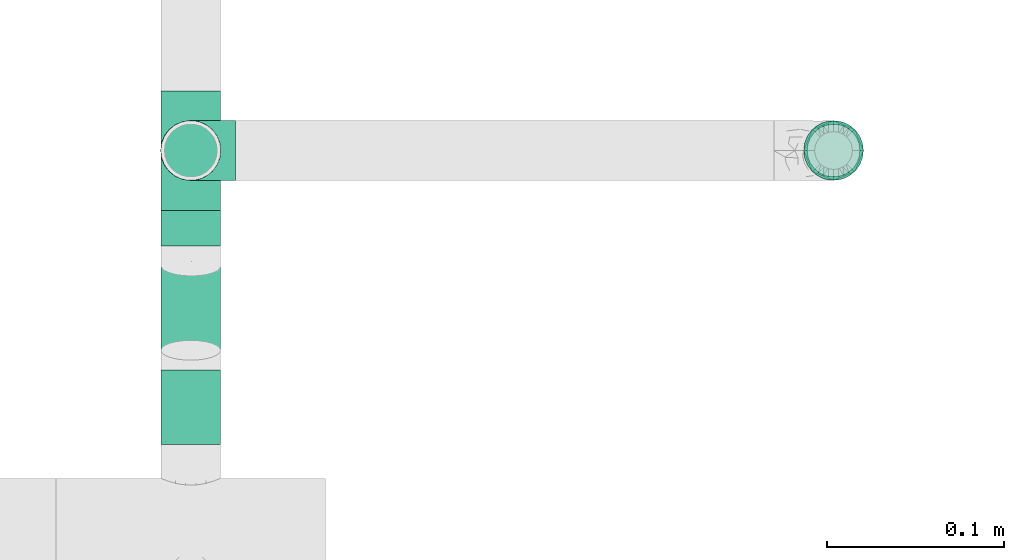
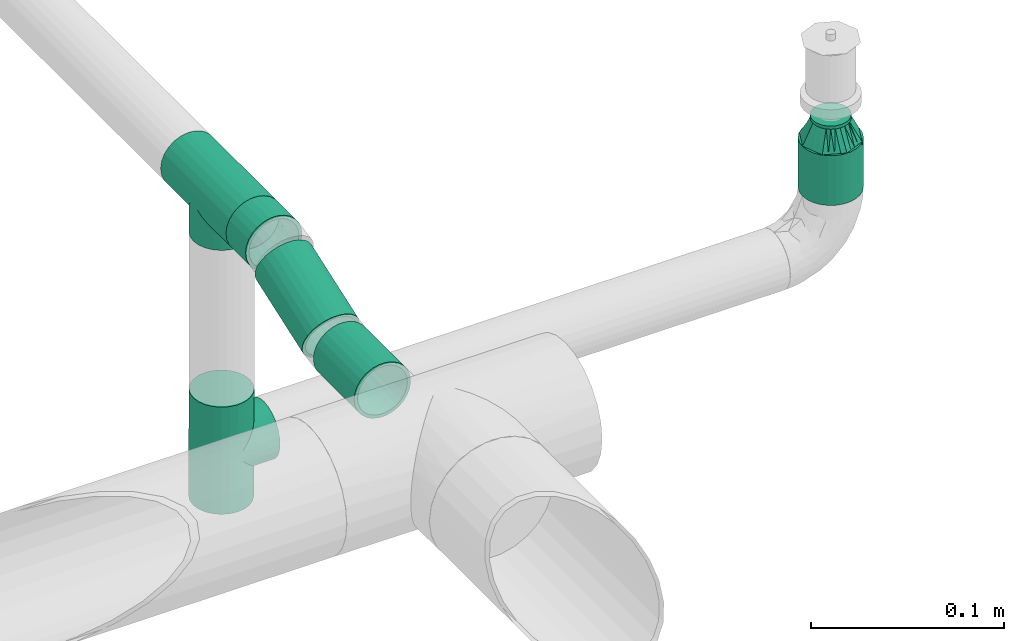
# One storey, part 121 of 157: 4 flow segments, 3 flow fittings.
"""IFC2X3 building model written with IfcOpenShell, lengths in millimetres."""

from ifc_helpers import new_model, entity, si_unit, converted_unit, derived_unit, direction, frame, origin_with_axes, origin_2d_with_axis, place, context, subcontext, project, spatial, hollow_circle, extrude, open_shell, surface_model, source, transform, mapped, type_object, element, save


model = new_model("IFC2X3")

# Units and contexts
model_context = context("Model", 3, precision=0.01, world=frame((0.0, 4.29681676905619e-09, 0.0)), true_north=direction((4.01073788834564e-13, 1.0)))
plan_context = context("Plan", 3, precision=0.01, world=frame((0.0, 4.29681676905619e-09, 0.0)), true_north=direction((4.01073788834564e-13, 1.0)))
body_context = subcontext(model_context, "Body", "Model", "MODEL_VIEW")
ifc_project = project(units=[converted_unit("PLANEANGLEUNIT", "DEGREE", entity("IfcPositiveLengthMeasure", 0.0174532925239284), si_unit("PLANEANGLEUNIT", "RADIAN"), dimensions=[0, 0, 0, 0, 0, 0, 0]), si_unit("AREAUNIT", "SQUARE_METRE"), si_unit("LENGTHUNIT", "METRE", prefix="MILLI"), si_unit("MASSUNIT", "GRAM", prefix="KILO"), si_unit("POWERUNIT", "WATT"), si_unit("PRESSUREUNIT", "PASCAL"), si_unit("FORCEUNIT", "NEWTON", prefix="KILO"), si_unit("ELECTRICCURRENTUNIT", "AMPERE"), si_unit("THERMODYNAMICTEMPERATUREUNIT", "DEGREE_CELSIUS"), si_unit("TIMEUNIT", "SECOND"), si_unit("VOLUMEUNIT", "CUBIC_METRE"), derived_unit("LINEARVELOCITYUNIT", [(si_unit("LENGTHUNIT", "METRE"), 1), (si_unit("TIMEUNIT", "SECOND"), -1)]), derived_unit("VOLUMETRICFLOWRATEUNIT", [(si_unit("VOLUMEUNIT", "CUBIC_METRE"), 1), (si_unit("TIMEUNIT", "SECOND"), -1)]), derived_unit("THERMALTRANSMITTANCEUNIT", [(si_unit("POWERUNIT", "WATT"), 1), (si_unit("THERMODYNAMICTEMPERATUREUNIT", "KELVIN"), -1), (si_unit("AREAUNIT", "SQUARE_METRE"), -1)])], contexts=[model_context, plan_context])

# Site, building, storey
site_placement = place(None, frame((0.0, -4.29681676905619e-09, 0.0), z_axis=(0.0, 0.0, 1.0), x_axis=(1.0, 0.0, 0.0)))
site = spatial("IfcSite", under=ifc_project, at=site_placement, CompositionType="ELEMENT")
building_placement = place(site_placement, frame((0.0, 4.29681676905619e-09, 0.0), z_axis=(0.0, 0.0, 1.0), x_axis=(1.0, 0.0, 0.0)))
building = spatial("IfcBuilding", under=site, at=building_placement, Name="mc-building", CompositionType="ELEMENT")
storey_placement = place(building_placement, frame((0.0, 0.0, 204000.0), z_axis=(0.0, 0.0, 1.0), x_axis=(1.0, 0.0, 0.0)))
storey = spatial("IfcBuildingStorey", under=building, at=storey_placement, Name="Nivå D", CompositionType="ELEMENT", Elevation=204000.0)

# Flow fittings
pipe_fitting_type_1 = type_object("IfcPipeFittingType", Name="magi_pipe_fe_tee_centric_90_NOR", PredefinedType="JUNCTION")
shared_shape_1 = source(origin_with_axes(), body_context, "Body", "SurfaceModel", [
    surface_model("IfcShellBasedSurfaceModel", [(-33.8, 4.37404, -16.32415), (-33.8, 0.0, -16.9), (-33.8, 16.32415, -4.37404), (-33.8, 8.45, -14.63583), (-33.8, 11.9501, -11.9501), (-33.8, 14.63583, -8.45), (-33.8, -16.9, 0.0), (-33.8, -11.9501, -11.9501), (-33.8, -14.63583, -8.45), (-33.8, -8.45, -14.63583), (-33.8, -4.37404, -16.32415), (-33.8, -16.32415, -4.37404), (-33.8, 14.63583, 8.45), (-33.8, 16.32415, 4.37404), (-33.8, -8.45, 14.63583), (-33.8, 8.45, 14.63583), (-33.8, 11.9501, 11.9501), (-33.8, 4.37404, 16.32415), (-33.8, 0.0, 16.9), (-33.8, -11.9501, 11.9501), (-33.8, -14.63583, 8.45), (-33.8, -16.32415, 4.37404), (-33.8, -4.37404, 16.32415), (-33.8, 16.9, 0.0), (33.8, 4.37404, -16.32415), (33.8, -16.9, 0.0), (33.8, 0.0, -16.9), (33.8, 14.63583, -8.45), (33.8, 8.45, -14.63583), (33.8, 16.32415, -4.37404), (33.8, 11.9501, -11.9501), (33.8, -16.32415, 4.37404), (33.8, -8.45, -14.63583), (33.8, -4.37404, -16.32415), (33.8, -11.9501, -11.9501), (33.8, -14.63583, -8.45), (33.8, -16.32415, -4.37404), (33.8, 16.32415, 4.37404), (33.8, 8.45, 14.63583), (33.8, 14.63583, 8.45), (33.8, 11.9501, 11.9501), (33.8, -8.45, 14.63583), (33.8, 4.37404, 16.32415), (33.8, -14.63583, 8.45), (33.8, -11.9501, 11.9501), (33.8, 0.0, 16.9), (33.8, -4.37404, 16.32415), (33.8, 16.9, 0.0), (16.28698, -16.28698, 4.51047), (16.9, -16.9, 0.0), (14.62704, -14.62704, 8.4652), (9.47213, -9.47213, 13.99602), (12.26343, -12.26343, 11.62834), (-16.9, -16.9, 0.0), (-16.28698, -16.28698, 4.51047), (-14.62704, -14.62704, 8.4652), (-12.26343, -12.26343, 11.62834), (-9.47213, -9.47213, 13.99602), (-6.42894, -6.42894, 15.62942), (6.42894, -6.42894, 15.62942), (3.24522, -3.24522, 16.58549), (0.0, 0.0, 16.9), (-3.24522, -3.24522, 16.58549), (3.24522, -3.24522, -16.58549), (0.0, 0.0, -16.9), (-3.24522, -3.24522, -16.58549), (-6.42894, -6.42894, -15.62942), (6.42894, -6.42894, -15.62942), (9.47213, -9.47213, -13.99602), (12.26343, -12.26343, -11.62834), (14.62704, -14.62704, -8.4652), (16.28698, -16.28698, -4.51047), (-9.47213, -9.47213, -13.99602), (-12.26343, -12.26343, -11.62834), (-16.28698, -16.28698, -4.51047), (-14.62704, -14.62704, -8.4652), (4.37404, -25.35, -16.32415), (-16.9, -25.35, 0.0), (0.0, -25.35, -16.9), (14.63583, -25.35, -8.45), (8.45, -25.35, -14.63583), (16.32415, -25.35, -4.37404), (11.9501, -25.35, -11.9501), (-11.9501, -25.35, -11.9501), (-8.45, -25.35, -14.63583), (-4.37404, -25.35, -16.32415), (-14.63583, -25.35, -8.45), (-16.32415, -25.35, -4.37404), (16.9, -25.35, 0.0), (8.45, -25.35, 14.63583), (16.32415, -25.35, 4.37404), (14.63583, -25.35, 8.45), (-8.45, -25.35, 14.63583), (11.9501, -25.35, 11.9501), (4.37404, -25.35, 16.32415), (-16.32415, -25.35, 4.37404), (-11.9501, -25.35, 11.9501), (-14.63583, -25.35, 8.45), (0.0, -25.35, 16.9), (-4.37404, -25.35, 16.32415)], [open_shell([[[0, 1, 2]], [[3, 0, 4]], [[0, 2, 5]], [[4, 0, 5]], [[6, 2, 1]], [[7, 8, 9]], [[1, 10, 9]], [[11, 6, 8]], [[1, 9, 8]], [[1, 8, 6]], [[6, 12, 2]], [[12, 13, 2]], [[14, 12, 6]], [[12, 14, 15]], [[16, 12, 15]], [[17, 15, 18]], [[19, 14, 20]], [[21, 20, 14]], [[22, 18, 14]], [[14, 6, 21]], [[14, 18, 15]], [[23, 2, 13]], [[24, 25, 26]], [[27, 24, 28]], [[27, 29, 24]], [[27, 28, 30]], [[31, 25, 24]], [[26, 32, 33]], [[26, 34, 32]], [[35, 25, 36]], [[35, 34, 26]], [[25, 35, 26]], [[24, 29, 31]], [[29, 37, 38]], [[38, 37, 39]], [[38, 31, 29]], [[38, 39, 40]], [[41, 38, 42]], [[43, 41, 44]], [[41, 43, 31]], [[41, 45, 46]], [[41, 31, 38]], [[42, 45, 41]], [[29, 47, 37]], [[31, 43, 48]], [[25, 31, 49]], [[49, 31, 48]], [[43, 50, 48]], [[44, 41, 51]], [[50, 43, 52]], [[51, 52, 44]], [[52, 43, 44]], [[53, 54, 21]], [[53, 21, 6]], [[21, 54, 20]], [[54, 55, 20]], [[56, 57, 19]], [[19, 20, 56]], [[19, 57, 14]], [[56, 20, 55]], [[14, 57, 58]], [[51, 41, 59]], [[60, 45, 61]], [[59, 46, 60]], [[46, 59, 41]], [[60, 46, 45]], [[61, 45, 42]], [[39, 37, 13]], [[16, 38, 40]], [[12, 40, 39]], [[42, 38, 15]], [[23, 37, 47]], [[62, 61, 18]], [[62, 22, 58]], [[22, 62, 18]], [[58, 22, 14]], [[61, 17, 18]], [[42, 17, 61]], [[15, 17, 42]], [[15, 38, 16]], [[12, 16, 40]], [[13, 12, 39]], [[37, 23, 13]], [[5, 27, 30]], [[23, 47, 29]], [[30, 28, 3]], [[27, 2, 29]], [[26, 33, 63]], [[26, 64, 24]], [[64, 26, 63]], [[28, 24, 0]], [[64, 0, 24]], [[4, 30, 3]], [[2, 27, 5]], [[5, 30, 4]], [[2, 23, 29]], [[65, 66, 10]], [[1, 0, 64]], [[1, 65, 10]], [[66, 9, 10]], [[0, 3, 28]], [[1, 64, 65]], [[63, 33, 67]], [[32, 34, 68]], [[69, 68, 34]], [[35, 70, 69]], [[69, 34, 35]], [[32, 68, 67]], [[36, 25, 49]], [[36, 71, 35]], [[71, 36, 49]], [[35, 71, 70]], [[72, 9, 66]], [[72, 7, 9]], [[7, 72, 73]], [[7, 73, 8]], [[74, 53, 11]], [[75, 74, 8]], [[74, 11, 8]], [[11, 53, 6]], [[75, 8, 73]], [[32, 67, 33]], [[76, 77, 78]], [[79, 76, 80]], [[79, 81, 76]], [[79, 80, 82]], [[77, 76, 81]], [[78, 83, 84]], [[84, 85, 78]], [[86, 77, 87]], [[83, 78, 86]], [[77, 86, 78]], [[81, 88, 77]], [[89, 88, 90]], [[89, 90, 91]], [[92, 77, 89]], [[89, 91, 93]], [[92, 89, 94]], [[95, 96, 97]], [[96, 95, 92]], [[92, 98, 99]], [[95, 77, 92]], [[94, 98, 92]], [[89, 77, 88]], [[77, 95, 53]], [[54, 53, 95]], [[97, 96, 56]], [[96, 92, 57]], [[95, 97, 54]], [[58, 92, 99]], [[55, 54, 97]], [[56, 55, 97]], [[58, 57, 92]], [[98, 61, 62]], [[58, 99, 62]], [[56, 96, 57]], [[62, 99, 98]], [[94, 60, 98]], [[89, 59, 94]], [[91, 90, 48]], [[52, 93, 91]], [[93, 51, 89]], [[49, 90, 88]], [[59, 60, 94]], [[51, 59, 89]], [[49, 48, 90]], [[50, 52, 91]], [[48, 50, 91]], [[51, 93, 52]], [[98, 60, 61]], [[88, 81, 49]], [[71, 49, 81]], [[79, 82, 69]], [[82, 80, 68]], [[81, 79, 71]], [[67, 80, 76]], [[70, 71, 79]], [[69, 70, 79]], [[67, 68, 80]], [[78, 64, 63]], [[67, 76, 63]], [[69, 82, 68]], [[63, 76, 78]], [[85, 65, 78]], [[84, 66, 85]], [[86, 87, 74]], [[86, 73, 83]], [[72, 84, 83]], [[53, 87, 77]], [[66, 65, 85]], [[72, 66, 84]], [[53, 74, 87]], [[75, 73, 86]], [[74, 75, 86]], [[72, 83, 73]], [[78, 65, 64]]])]),
])
for number, where, z_axis, x_axis, name in (
    (1, (531100.50635, 414262.85739, 2556.33525999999), (0.0, -1.0, 0.0), (0.00322799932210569, 0.0, 0.999994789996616), "magi_pipe_fe_tee_centric_90_NOR"),
    (2, (531100.61546, 414262.85739, 2714.41294000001), (-1.0, 0.0, 0.0), (0.0, -1.0, 0.0), "magi_pipe_fe_tee_centric_90_NOR"),
):
    element("IfcFlowFitting", number, at=place(storey_placement, frame(where, z_axis=z_axis, x_axis=x_axis)), inside=storey, type_object=pipe_fitting_type_1, Name=name, context=body_context, shape_type="MappedRepresentation", body=[
        mapped(shared_shape_1, transform((0.0, 0.0, 0.0), scale=1.0)),
    ])
pipe_fitting_type_2 = type_object("IfcPipeFittingType", Name="magi_pipe_fe_reducer_centric_short_NOR", PredefinedType="TRANSITION")
shared_shape_2 = source(origin_with_axes(), body_context, "Body", "SurfaceModel", [
    surface_model("IfcShellBasedSurfaceModel", [(14.4, 5.35, -9.26647), (14.4, 0.0, -10.7), (14.4, 2.76936, -10.33541), (14.4, 10.33541, -2.76936), (14.4, 7.56604, -7.56604), (14.4, -10.33541, -2.76936), (14.4, 9.26647, -5.35), (14.4, 0.0, 10.7), (14.4, -5.35, -9.26647), (14.4, -2.76936, -10.33541), (14.4, -7.56604, -7.56604), (14.4, -9.26647, -5.35), (14.4, 10.7, 0.0), (14.4, 10.33541, 2.76936), (14.4, 9.26647, 5.35), (14.4, 7.56604, 7.56604), (14.4, 2.76936, 10.33541), (14.4, 5.35, 9.26647), (14.4, -10.33541, 2.76936), (14.4, -7.56604, 7.56604), (14.4, -9.26647, 5.35), (14.4, -10.7, 0.0), (14.4, -2.76936, 10.33541), (14.4, -5.35, 9.26647), (12.4, 2.76936, 10.33541), (12.4, -10.33541, -2.76936), (12.4, 0.0, 10.7), (12.4, 5.35, 9.26647), (12.4, 7.56604, 7.56604), (12.4, 9.26647, 5.35), (12.4, 10.33541, 2.76936), (12.4, -10.33541, 2.76936), (12.4, -2.76936, 10.33541), (12.4, -7.56604, 7.56604), (12.4, -5.35, 9.26647), (12.4, -9.26647, 5.35), (12.4, -10.7, 0.0), (12.4, 10.33541, -2.76936), (12.4, 5.35, -9.26647), (12.4, 9.26647, -5.35), (12.4, 7.56604, -7.56604), (12.4, 2.76936, -10.33541), (12.4, -9.26647, -5.35), (12.4, -5.35, -9.26647), (12.4, -7.56604, -7.56604), (12.4, 0.0, -10.7), (12.4, -2.76936, -10.33541), (12.4, 10.7, 0.0), (-2.0, 11.9501, 11.9501), (-2.0, 0.0, 16.9), (-2.0, 4.37404, 16.32415), (-2.0, 8.45, 14.63583), (-2.0, 14.63583, 8.45), (-2.0, 16.32415, 4.37404), (-2.0, -16.32415, 4.37404), (-2.0, -8.45, 14.63583), (-2.0, -14.63583, 8.45), (-2.0, -11.9501, 11.9501), (-2.0, -4.37404, 16.32415), (-2.0, -16.32415, -4.37404), (-2.0, -16.9, 0.0), (-2.0, -8.45, -14.63583), (-2.0, 16.32415, -4.37404), (-2.0, 11.9501, -11.9501), (-2.0, 14.63583, -8.45), (-2.0, 8.45, -14.63583), (-2.0, 4.37404, -16.32415), (-2.0, 0.0, -16.9), (-2.0, -11.9501, -11.9501), (-2.0, -14.63583, -8.45), (-2.0, -4.37404, -16.32415), (-2.0, 16.9, 0.0), (0.0, 4.37404, -16.32415), (0.0, 8.45, -14.63583), (0.0, 11.9501, -11.9501), (0.0, 0.0, -16.9), (0.0, 16.32415, -4.37404), (0.0, 16.32415, 4.37404), (0.0, 14.63583, -8.45), (0.0, -8.45, -14.63583), (0.0, -4.37404, -16.32415), (0.0, -11.9501, -11.9501), (0.0, -16.32415, -4.37404), (0.0, -14.63583, -8.45), (0.0, -16.32415, 4.37404), (0.0, 16.9, 0.0), (0.0, 14.63583, 8.45), (0.0, 11.9501, 11.9501), (0.0, 4.37404, 16.32415), (0.0, 8.45, 14.63583), (0.0, 0.0, 16.9), (0.0, -14.63583, 8.45), (0.0, -16.9, 0.0), (0.0, -8.45, 14.63583), (0.0, -11.9501, 11.9501), (0.0, -4.37404, 16.32415), (12.4, 9.3625, -2.31662), (0.0, 14.42505, -5.97505), (0.0, 15.66253, -2.98753), (12.4, -6.6875, -6.94985), (0.0, -13.18758, -8.96258), (0.0, 2.98753, -15.66253), (12.4, 0.0, -9.26647), (12.4, 6.6875, -6.94985), (0.0, 8.96258, -13.18758), (12.4, -9.3625, -2.31662), (0.0, -15.66253, -2.98753), (0.0, -14.42505, -5.97505), (0.0, 5.97505, -14.42505), (0.0, -2.98753, -15.66253), (0.0, -8.96258, -13.18758), (0.0, 13.18758, -8.96258), (12.4, 8.025, -4.63324), (12.4, -2.675, -9.26647), (12.4, 2.675, -9.26647), (0.0, -5.97505, -14.42505), (12.4, -8.025, -4.63324), (12.4, -9.3625, 2.31662), (0.0, -14.42505, 5.97505), (0.0, -15.66253, 2.98753), (12.4, 6.6875, 6.94985), (0.0, 13.18758, 8.96258), (0.0, -2.98753, 15.66253), (12.4, 0.0, 9.26647), (12.4, -6.6875, 6.94985), (0.0, -8.96258, 13.18758), (12.4, 9.3625, 2.31662), (0.0, 15.66253, 2.98753), (0.0, 14.42505, 5.97505), (0.0, -5.97505, 14.42505), (0.0, 2.98753, 15.66253), (0.0, 8.96258, 13.18758), (0.0, -13.18758, 8.96258), (12.4, -8.025, 4.63324), (12.4, 2.675, 9.26647), (12.4, -2.675, 9.26647), (0.0, 5.97505, 14.42505), (12.4, 8.025, 4.63324)], [open_shell([[[0, 1, 2]], [[3, 0, 4]], [[5, 0, 3]], [[3, 4, 6]], [[7, 5, 3]], [[1, 8, 9]], [[1, 0, 8]], [[10, 5, 11]], [[5, 10, 8]], [[0, 5, 8]], [[3, 12, 13]], [[13, 14, 15]], [[13, 15, 16]], [[7, 3, 16]], [[16, 15, 17]], [[7, 18, 5]], [[18, 19, 20]], [[21, 5, 18]], [[19, 22, 23]], [[22, 19, 18]], [[7, 22, 18]], [[13, 16, 3]], [[24, 25, 26]], [[27, 25, 24]], [[28, 29, 30]], [[28, 25, 27]], [[31, 26, 25]], [[32, 33, 34]], [[33, 32, 31]], [[33, 31, 35]], [[32, 26, 31]], [[31, 25, 36]], [[30, 37, 28]], [[25, 28, 37]], [[38, 37, 39]], [[37, 38, 25]], [[38, 39, 40]], [[41, 25, 38]], [[42, 43, 44]], [[43, 42, 25]], [[43, 45, 46]], [[43, 25, 41]], [[41, 45, 43]], [[37, 30, 47]], [[25, 5, 36]], [[42, 11, 25]], [[8, 44, 43]], [[42, 44, 10]], [[9, 43, 46]], [[25, 11, 5]], [[5, 21, 36]], [[9, 8, 43]], [[10, 44, 8]], [[10, 11, 42]], [[1, 9, 46]], [[46, 45, 1]], [[41, 2, 45]], [[38, 0, 41]], [[6, 40, 39]], [[38, 40, 4]], [[3, 39, 37]], [[38, 4, 0]], [[0, 2, 41]], [[12, 3, 37]], [[6, 39, 3]], [[6, 4, 40]], [[47, 12, 37]], [[45, 2, 1]], [[30, 13, 47]], [[29, 14, 30]], [[17, 28, 27]], [[29, 28, 15]], [[16, 27, 24]], [[30, 14, 13]], [[13, 12, 47]], [[16, 17, 27]], [[15, 28, 17]], [[15, 14, 29]], [[7, 16, 24]], [[24, 26, 7]], [[32, 22, 26]], [[34, 23, 32]], [[20, 33, 35]], [[34, 33, 19]], [[18, 35, 31]], [[34, 19, 23]], [[23, 22, 32]], [[21, 18, 31]], [[20, 35, 18]], [[20, 19, 33]], [[36, 21, 31]], [[26, 22, 7]], [[48, 49, 50]], [[48, 50, 51]], [[48, 52, 53]], [[48, 53, 49]], [[49, 53, 54]], [[55, 56, 57]], [[55, 58, 49]], [[56, 55, 49]], [[49, 54, 56]], [[54, 59, 60]], [[54, 53, 61]], [[53, 62, 63]], [[63, 62, 64]], [[63, 65, 66]], [[61, 53, 63]], [[67, 63, 66]], [[59, 68, 69]], [[68, 59, 61]], [[61, 67, 70]], [[59, 54, 61]], [[63, 67, 61]], [[53, 71, 62]], [[72, 73, 74]], [[75, 72, 74]], [[74, 76, 77]], [[76, 74, 78]], [[74, 77, 79]], [[75, 79, 80]], [[75, 74, 79]], [[81, 82, 83]], [[82, 81, 79]], [[79, 84, 82]], [[77, 76, 85]], [[77, 86, 87]], [[77, 87, 88]], [[88, 84, 79]], [[88, 87, 89]], [[84, 88, 90]], [[90, 91, 84]], [[92, 82, 84]], [[91, 93, 94]], [[91, 90, 93]], [[93, 90, 95]], [[79, 77, 88]], [[59, 82, 60]], [[69, 83, 59]], [[79, 68, 61]], [[69, 68, 81]], [[80, 61, 70]], [[59, 83, 82]], [[82, 92, 60]], [[80, 79, 61]], [[81, 68, 79]], [[81, 83, 69]], [[75, 80, 70]], [[70, 67, 75]], [[66, 72, 67]], [[65, 73, 66]], [[78, 63, 64]], [[65, 63, 74]], [[76, 64, 62]], [[65, 74, 73]], [[73, 72, 66]], [[85, 76, 62]], [[78, 64, 76]], [[78, 74, 63]], [[71, 85, 62]], [[67, 72, 75]], [[53, 77, 71]], [[52, 86, 53]], [[89, 48, 51]], [[52, 48, 87]], [[88, 51, 50]], [[53, 86, 77]], [[77, 85, 71]], [[88, 89, 51]], [[87, 48, 89]], [[87, 86, 52]], [[90, 88, 50]], [[50, 49, 90]], [[58, 95, 49]], [[55, 93, 58]], [[91, 57, 56]], [[55, 57, 94]], [[84, 56, 54]], [[55, 94, 93]], [[93, 95, 58]], [[92, 84, 54]], [[91, 56, 84]], [[91, 94, 57]], [[60, 92, 54]], [[49, 95, 90]], [[27, 34, 47]], [[47, 34, 43]], [[43, 38, 47]], [[43, 34, 36]], [[90, 87, 94]], [[92, 94, 87]], [[87, 74, 92]], [[75, 92, 74]], [[81, 92, 75]], [[74, 87, 85]], [[96, 97, 98]], [[81, 99, 100]], [[101, 102, 75]], [[98, 85, 47]], [[74, 103, 104]], [[104, 103, 38]], [[105, 106, 107]], [[38, 108, 104]], [[102, 109, 75]], [[110, 99, 81]], [[47, 96, 98]], [[103, 111, 112]], [[109, 102, 113]], [[36, 92, 106]], [[102, 101, 114]], [[110, 115, 43]], [[96, 112, 97]], [[107, 116, 105]], [[36, 106, 105]], [[113, 115, 109]], [[43, 115, 113]], [[116, 107, 100]], [[108, 38, 114]], [[111, 103, 74]], [[111, 97, 112]], [[99, 110, 43]], [[116, 100, 99]], [[101, 108, 114]], [[117, 118, 119]], [[87, 120, 121]], [[122, 123, 90]], [[119, 92, 36]], [[94, 124, 125]], [[125, 124, 34]], [[126, 127, 128]], [[34, 129, 125]], [[123, 130, 90]], [[131, 120, 87]], [[36, 117, 119]], [[124, 132, 133]], [[130, 123, 134]], [[47, 85, 127]], [[123, 122, 135]], [[131, 136, 27]], [[117, 133, 118]], [[128, 137, 126]], [[47, 127, 126]], [[134, 136, 130]], [[27, 136, 134]], [[137, 128, 121]], [[129, 34, 135]], [[132, 124, 94]], [[132, 118, 133]], [[120, 131, 27]], [[137, 121, 120]], [[122, 129, 135]]])]),
])
flow_fitting_placement = place(storey_placement, frame((531464.1861, 414262.85739, 2621.49223999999), z_axis=(0.0, 1.0, 0.0), x_axis=(0.0, 0.0, 1.0)))
element("IfcFlowFitting", 3, at=flow_fitting_placement, inside=storey, type_object=pipe_fitting_type_2, Name="magi_pipe_fe_reducer_centric_short_NOR", context=body_context, shape_type="MappedRepresentation", body=[
    mapped(shared_shape_2, transform((0.0, 0.0, 0.0), scale=1.0)),
])

# Flow segments
pipe_segment_type = type_object("IfcPipeSegmentType", Name="Stålrør normaltykke", PredefinedType="RIGIDSEGMENT")
shared_shape_3 = source(origin_with_axes(), body_context, "Body", "SweptSolid", [
    extrude(hollow_circle(Radius=16.9, WallThickness=2.0, at=origin_2d_with_axis()), frame((0.0, 0.0, 0.0), z_axis=(1.0, 0.0, 0.0), x_axis=(0.0, 1.0, 0.0)), (0.0, 0.0, 1.0), 31.4),
])
flow_segment_1_placement = place(storey_placement, frame((531464.1861, 414262.85739, 2590.12700000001), z_axis=(0.0, 1.0, 0.0), x_axis=(0.0, 0.0, 1.0)))
element("IfcFlowSegment", 4, at=flow_segment_1_placement, inside=storey, type_object=pipe_segment_type, Name="Stålrør normaltykke", context=body_context, shape_type="MappedRepresentation", body=[
    mapped(shared_shape_3, transform((0.0, 0.0, 0.0), scale=1.0)),
])
shared_shape_4 = source(origin_with_axes(), body_context, "Body", "SweptSolid", [
    extrude(hollow_circle(Radius=16.9, WallThickness=2.0, at=origin_2d_with_axis()), frame((0.0, 0.0, 0.0), z_axis=(1.0, 0.0, 0.0), x_axis=(0.0, 1.0, 0.0)), (0.0, 0.0, 1.0), 42.2),
])
flow_segment_2_placement = place(storey_placement, frame((531100.56984, 414096.50389, 2690.0), z_axis=(0.0, 0.0, 1.0), x_axis=(0.0, 1.0, 0.0)))
element("IfcFlowSegment", 5, at=flow_segment_2_placement, inside=storey, type_object=pipe_segment_type, Name="Stålrør normaltykke", context=body_context, shape_type="MappedRepresentation", body=[
    mapped(shared_shape_4, transform((0.0, 0.0, 0.0), scale=1.0)),
])
shared_shape_5 = source(origin_with_axes(), body_context, "Body", "SweptSolid", [
    extrude(hollow_circle(Radius=16.9, WallThickness=2.0, at=origin_2d_with_axis()), frame((0.0, 0.0, 0.0), z_axis=(1.0, 0.0, 0.0), x_axis=(0.0, 1.0, 0.0)), (0.0, 0.0, 1.0), 20.3),
])
flow_segment_3_placement = place(storey_placement, frame((531100.61546, 414229.05739, 2714.41294000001), z_axis=(0.0, 0.0, 1.0), x_axis=(0.0, -1.0, 0.0)))
element("IfcFlowSegment", 6, at=flow_segment_3_placement, inside=storey, type_object=pipe_segment_type, Name="Stålrør normaltykke", context=body_context, shape_type="MappedRepresentation", body=[
    mapped(shared_shape_5, transform((0.0, 0.0, 0.0), scale=1.0)),
])
shared_shape_6 = source(origin_with_axes(), body_context, "Body", "SweptSolid", [
    extrude(hollow_circle(Radius=16.9, WallThickness=2.0, at=origin_2d_with_axis()), frame((0.0, 0.0, 0.0), z_axis=(1.0, 0.0, 0.0), x_axis=(0.0, 1.0, 0.0)), (0.0, 0.0, 1.0), 51.8),
])
flow_segment_4_placement = place(storey_placement, frame((531100.56984, 414149.86404, 2691.91252000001), z_axis=(0.0, -0.331609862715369, 0.943416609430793), x_axis=(0.0, 0.943416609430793, 0.331609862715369)))
element("IfcFlowSegment", 7, at=flow_segment_4_placement, inside=storey, type_object=pipe_segment_type, Name="Stålrør normaltykke", context=body_context, shape_type="MappedRepresentation", body=[
    mapped(shared_shape_6, transform((0.0, 0.0, 0.0), scale=1.0)),
])

save(model, "model.ifc")
